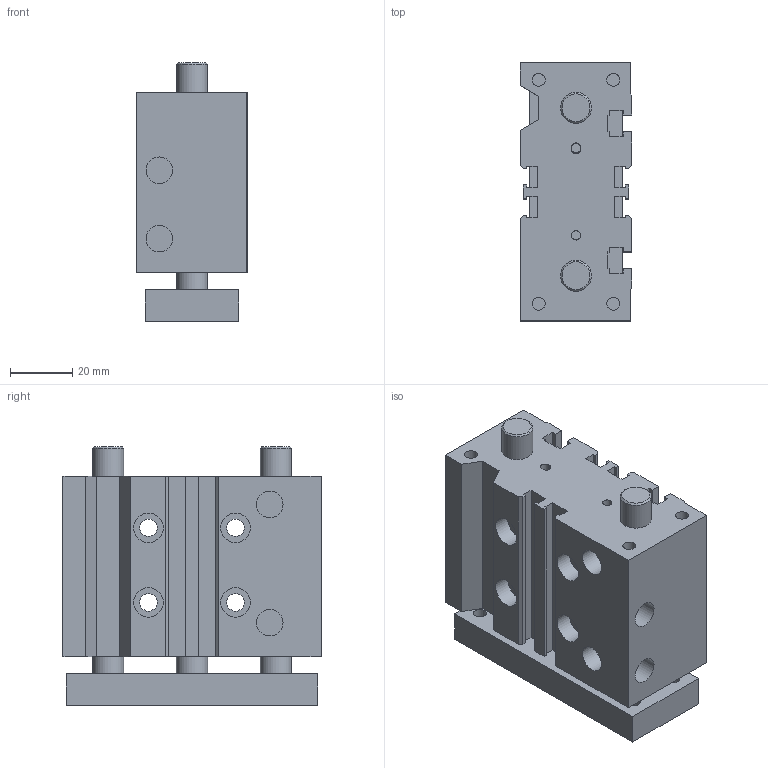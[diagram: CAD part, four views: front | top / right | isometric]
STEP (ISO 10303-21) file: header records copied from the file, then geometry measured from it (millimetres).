
FILE_DESCRIPTION((''),'2;1');
FILE_NAME('K:\A-Mauro\_Inventor\LIBRERIE\6100\6100_#_#_#\6100200020C.stp','2007-02-26T08:46:37',('valotma1'),(''),'Autodesk Inventor 11','Autodesk Inventor 11','');
FILE_SCHEMA(('AUTOMOTIVE_DESIGN { 1 0 10303 214 1 1 1 1 }'));
Length unit declared in the file: millimetre
Products named in the file (3): 6100200020C; CORPO Ø20 C20 C; PIASTRA Ø20 C20 C
Assembly tree (2 placements, depth 2):
  6100200020C
    CORPO Ø20 C20 C
    PIASTRA Ø20 C20 C
Bounding box: 36 x 83 x 83 mm (x, y, z)
Volume: 173058.7 mm3; surface area: 46251.6 mm2
Topology: 2 solids, 2 shells, 158 faces, 393 edges, 261 vertices
Faces by surface type: plane 95, bspline 52, cylinder 9, cone 2
Full cylindrical faces by diameter (mm): 10 x3
Entity records: 4932 total; most frequent: CARTESIAN_POINT 1329, ORIENTED_EDGE 702, DIRECTION 654, EDGE_CURVE 351, VECTOR 270, LINE 270, VERTEX_POINT 253, EDGE_LOOP 234
